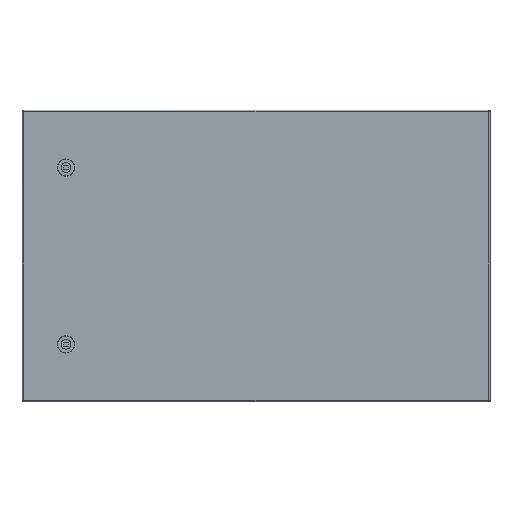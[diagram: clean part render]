
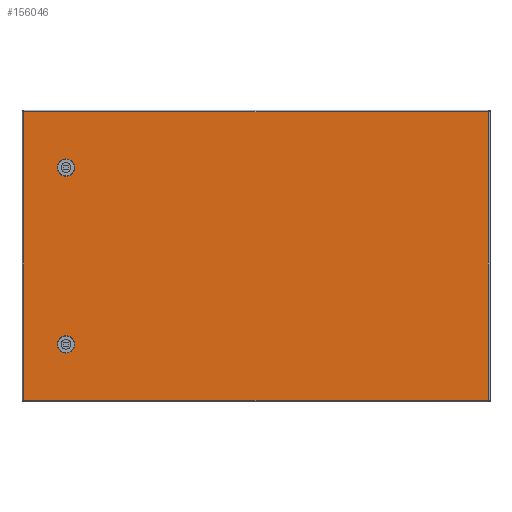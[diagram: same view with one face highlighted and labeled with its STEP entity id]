
A CAD part, top view. The second image highlights one B-rep face of the part: STEP entity #156046.
In plain terms, the highlighted planar face has unit normal (0, 0, 1).
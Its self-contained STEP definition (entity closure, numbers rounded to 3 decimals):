
#155191=CARTESIAN_POINT(' ',(2.8,0.8,0.));
#155196=DIRECTION(' ',(1.,0.,0.));
#155201=VECTOR(' ',#155196,1.);
#155206=LINE('',#155191,#155201);
#155211=CARTESIAN_POINT(' ',(2.8,0.8,0.));
#155212=VERTEX_POINT(' ',#155211);
#155216=CARTESIAN_POINT(' ',(791.2,0.8,0.));
#155217=VERTEX_POINT(' ',#155216);
#155221=EDGE_CURVE(' ',#155212,#155217,#155206,.T.);
#155906=DIRECTION(' ',(-0.,-0.,1.));
#155911=CARTESIAN_POINT(' ',(791.2,0.8,0.));
#155916=DIRECTION(' ',(0.,1.,0.));
#155921=AXIS2_PLACEMENT_3D(' ',#155911,#155906,#155916);
#155926=PLANE('NONE',#155921);
#155931=ORIENTED_EDGE(' ',*,*,#155221,.T.);
#155936=CARTESIAN_POINT(' ',(791.2,490.2,0.));
#155941=DIRECTION(' ',(0.,-1.,0.));
#155946=VECTOR(' ',#155941,1.);
#155951=LINE('',#155936,#155946);
#155956=CARTESIAN_POINT(' ',(791.2,490.2,0.));
#155957=VERTEX_POINT(' ',#155956);
#155961=EDGE_CURVE(' ',#155957,#155217,#155951,.T.);
#155966=ORIENTED_EDGE(' ',*,*,#155961,.F.);
#155971=CARTESIAN_POINT(' ',(791.2,490.2,0.));
#155976=DIRECTION(' ',(-1.,0.,0.));
#155981=VECTOR(' ',#155976,1.);
#155986=LINE('',#155971,#155981);
#155991=CARTESIAN_POINT(' ',(2.8,490.2,0.));
#155992=VERTEX_POINT(' ',#155991);
#155996=EDGE_CURVE(' ',#155957,#155992,#155986,.T.);
#156001=ORIENTED_EDGE(' ',*,*,#155996,.T.);
#156006=CARTESIAN_POINT(' ',(2.8,490.2,0.));
#156011=DIRECTION(' ',(0.,-1.,0.));
#156016=VECTOR(' ',#156011,1.);
#156021=LINE('',#156006,#156016);
#156026=EDGE_CURVE(' ',#155992,#155212,#156021,.T.);
#156031=ORIENTED_EDGE(' ',*,*,#156026,.T.);
#156036=EDGE_LOOP(' ',(#155931,#155966,#156001,#156031));
#156041=FACE_OUTER_BOUND(' ',#156036,.T.);
#156046=ADVANCED_FACE('NONE',(#156041),#155926,.T.);
